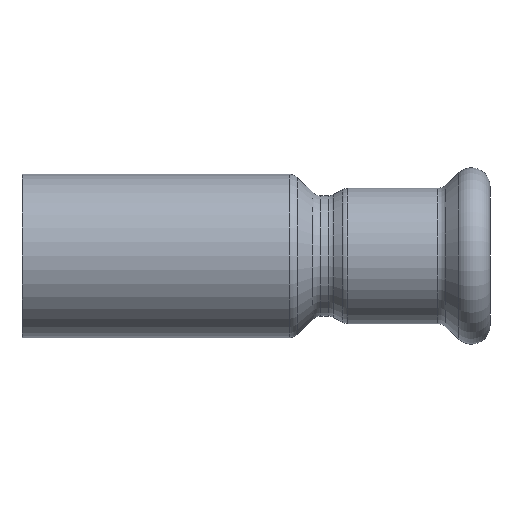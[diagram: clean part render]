
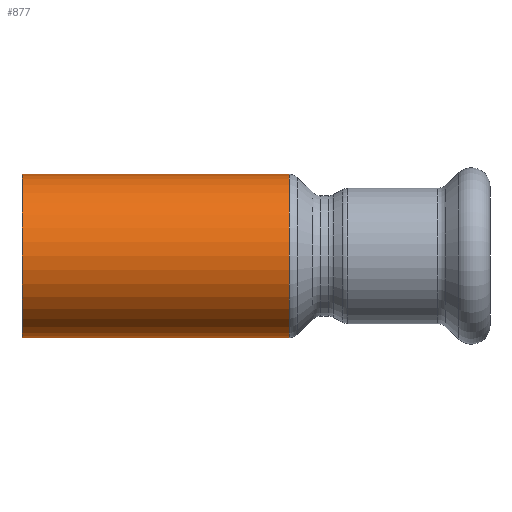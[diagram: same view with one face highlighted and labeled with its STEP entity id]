
A CAD part, front view. The second image highlights one B-rep face of the part: STEP entity #877.
In plain terms, the highlighted cylindrical face has radius 11 mm (diameter 22 mm), a partial arc.
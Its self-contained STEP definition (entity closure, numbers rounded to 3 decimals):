
#5 = DIRECTION ( 'NONE',  ( -1., 0., 0. ) ) ;
#18 = ORIENTED_EDGE ( 'NONE', *, *, #135, .F. ) ;
#35 = DIRECTION ( 'NONE',  ( -1., 0., 0. ) ) ;
#58 = CARTESIAN_POINT ( 'NONE',  ( 17.512, 0., 11. ) ) ;
#85 = DIRECTION ( 'NONE',  ( -1., 0., 0. ) ) ;
#135 = EDGE_CURVE ( 'NONE', #435, #521, #383, .T. ) ;
#172 = AXIS2_PLACEMENT_3D ( 'NONE', #977, #85, #1074 ) ;
#211 = CIRCLE ( 'NONE', #172, 11. ) ;
#215 = EDGE_LOOP ( 'NONE', ( #18, #588, #849, #218 ) ) ;
#218 = ORIENTED_EDGE ( 'NONE', *, *, #1002, .F. ) ;
#225 = EDGE_CURVE ( 'NONE', #435, #819, #211, .T. ) ;
#236 = CARTESIAN_POINT ( 'NONE',  ( 17.512, 0., -11. ) ) ;
#244 = VECTOR ( 'NONE', #280, 1000. ) ;
#280 = DIRECTION ( 'NONE',  ( -1., 0., 0. ) ) ;
#362 = EDGE_CURVE ( 'NONE', #819, #844, #414, .T. ) ;
#383 = LINE ( 'NONE', #1160, #244 ) ;
#414 = LINE ( 'NONE', #614, #885 ) ;
#435 = VERTEX_POINT ( 'NONE', #236 ) ;
#452 = DIRECTION ( 'NONE',  ( 0., 0., 1. ) ) ;
#461 = FACE_OUTER_BOUND ( 'NONE', #215, .T. ) ;
#521 = VERTEX_POINT ( 'NONE', #804 ) ;
#588 = ORIENTED_EDGE ( 'NONE', *, *, #225, .T. ) ;
#614 = CARTESIAN_POINT ( 'NONE',  ( -53.513, 0., 11. ) ) ;
#621 = AXIS2_PLACEMENT_3D ( 'NONE', #868, #845, #452 ) ;
#649 = CYLINDRICAL_SURFACE ( 'NONE', #621, 11. ) ;
#804 = CARTESIAN_POINT ( 'NONE',  ( -18.488, 0., -11. ) ) ;
#819 = VERTEX_POINT ( 'NONE', #58 ) ;
#824 = CIRCLE ( 'NONE', #907, 11. ) ;
#844 = VERTEX_POINT ( 'NONE', #1062 ) ;
#845 = DIRECTION ( 'NONE',  ( -1., 0., 0. ) ) ;
#849 = ORIENTED_EDGE ( 'NONE', *, *, #362, .T. ) ;
#868 = CARTESIAN_POINT ( 'NONE',  ( -53.513, 0., 0. ) ) ;
#877 = ADVANCED_FACE ( 'NONE', ( #461 ), #649, .T. ) ;
#885 = VECTOR ( 'NONE', #35, 1000. ) ;
#894 = CARTESIAN_POINT ( 'NONE',  ( -18.488, 0., 0. ) ) ;
#907 = AXIS2_PLACEMENT_3D ( 'NONE', #894, #5, #981 ) ;
#977 = CARTESIAN_POINT ( 'NONE',  ( 17.512, 0., 0. ) ) ;
#981 = DIRECTION ( 'NONE',  ( 0., 0., 1. ) ) ;
#1002 = EDGE_CURVE ( 'NONE', #521, #844, #824, .T. ) ;
#1062 = CARTESIAN_POINT ( 'NONE',  ( -18.488, 0., 11. ) ) ;
#1074 = DIRECTION ( 'NONE',  ( 0., 0., -1. ) ) ;
#1160 = CARTESIAN_POINT ( 'NONE',  ( -53.513, 0., -11. ) ) ;
